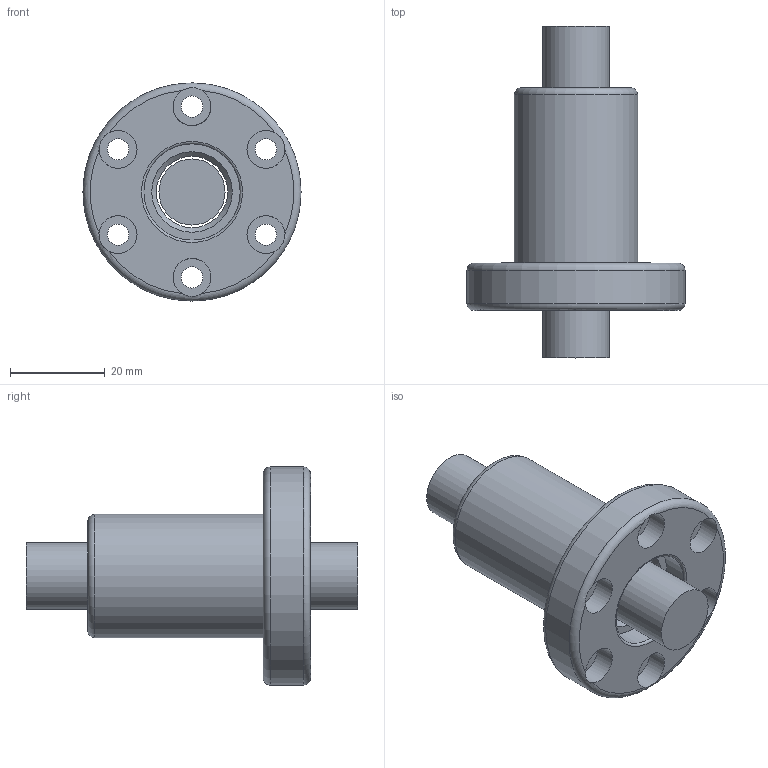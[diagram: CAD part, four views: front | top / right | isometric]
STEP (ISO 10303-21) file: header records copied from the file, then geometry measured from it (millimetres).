
FILE_DESCRIPTION(/* description */ (''),/* implementation_level */ '2;1');
FILE_NAME(/* name */ '1404T4N.prt.step',/* time_stamp */ '2008-12-05T09:32:45+08:00',/* author */ (''),/* organization */ (''),/* preprocessor_version */ 'ST-DEVELOPER v11',/* originating_system */ 'SIEMENS UGS NX 6.0',/* authorisation */ '');
FILE_SCHEMA (('AUTOMOTIVE_DESIGN { 1 0 10303 214 1 1 1 1 }'));
Length unit declared in the file: millimetre
Products named in the file (1): 1404T4N
Bounding box: 46 x 70 x 46 mm (x, y, z)
Volume: 34922.4 mm3; surface area: 13826.5 mm2
Topology: 2 solids, 2 shells, 44 faces, 104 edges, 67 vertices
Faces by surface type: cylinder 18, plane 13, cone 8, torus 5
Full cylindrical faces by diameter (mm): 4.5 x6, 8 x6, 13.95 x1, 15 x1, 20.3 x2, 26 x1, 46 x1
Entity records: 1132 total; most frequent: CARTESIAN_POINT 231, DIRECTION 198, ORIENTED_EDGE 120, AXIS2_PLACEMENT_3D 99, EDGE_LOOP 92, FACE_BOUND 90, EDGE_CURVE 60, VERTEX_POINT 54
